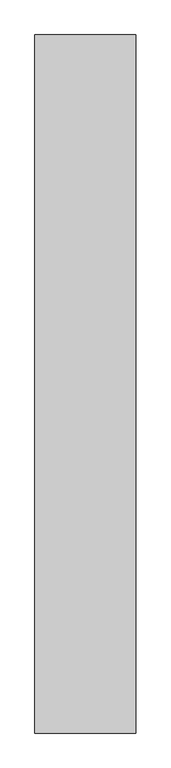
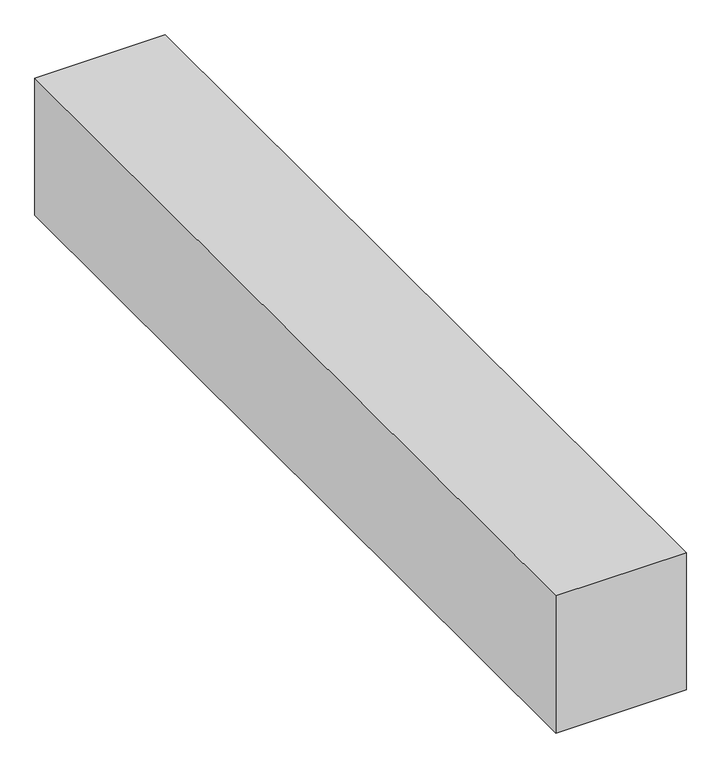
"""IFC4 building model written with IfcOpenShell, lengths in millimetres: furniture geometry, 家具 1 : 家具 1."""

import ifcopenshell
import ifcopenshell.guid

model = None  # the IFC model being written
_history = None  # IfcOwnerHistory: only IFC2X3 demands one
_inside = {}  # id of a spatial element -> (the spatial element, [elements in it])
_under = {}  # id of a project, library or spatial element -> (it, [spatial elements below it])
_declared = {}  # id of a project -> (the project, [libraries it declares])
_typed = {}  # id of a type object -> (the type object, [elements of that type])
_made_of = {}  # id of a material, layer set ... -> (it, [elements and type objects made of it])


def new_model(schema):
    """Start an empty IFC model of exactly this schema.

    Asked for "IFC4X3", IfcOpenShell would pick the latest addendum, in which some entities
    have other attributes; the version numbers below select the first issue.
    IFC2X3 requires an IfcOwnerHistory on every rooted entity: one is made here for all.
    """
    global model, _history
    if schema == "IFC4X3":
        model = ifcopenshell.file(schema_version=(4, 3, 0, 0))
    else:
        model = ifcopenshell.file(schema=schema)
    _inside.clear()
    _under.clear()
    _declared.clear()
    _typed.clear()
    _made_of.clear()
    _history = None
    if model.schema == "IFC2X3":
        org = make("IfcOrganization", Name="unknown")
        user = make(
            "IfcPersonAndOrganization",
            ThePerson=make("IfcPerson", FamilyName="unknown"),
            TheOrganization=org,
        )
        app = make(
            "IfcApplication",
            ApplicationDeveloper=org,
            Version="unknown",
            ApplicationFullName="unknown",
            ApplicationIdentifier="unknown",
        )
        _history = make(
            "IfcOwnerHistory",
            OwningUser=user,
            OwningApplication=app,
            ChangeAction="ADDED",
            CreationDate=0,
        )
    return model


def make(cls, **values):
    """One entity of the class cls with the attributes given. An attribute that is None is left unset."""
    return model.create_entity(
        cls, **{name: value for name, value in values.items() if value is not None}
    )


def rooted(cls, **values):
    """An entity with a GlobalId (a new one), such as an element, a storey or a relation."""
    return make(cls, GlobalId=ifcopenshell.guid.new(), OwnerHistory=_history, **values)


def si_unit(unit_type, name, prefix=None):
    """IfcSIUnit, for example si_unit("LENGTHUNIT", "METRE", prefix="MILLI")."""
    return make("IfcSIUnit", UnitType=unit_type, Prefix=prefix, Name=name)


def assignment(units):
    """IfcUnitAssignment: the units of a project."""
    return None if units is None else make("IfcUnitAssignment", Units=units)


def point(xyz):
    """IfcCartesianPoint."""
    return None if xyz is None else make("IfcCartesianPoint", Coordinates=xyz)


def direction(xyz):
    """IfcDirection."""
    return None if xyz is None else make("IfcDirection", DirectionRatios=xyz)


def frame(location, z_axis=None, x_axis=None):
    """IfcAxis2Placement3D, a coordinate frame: its origin and axes. An axis left out is left unset."""
    return make(
        "IfcAxis2Placement3D",
        Location=point(location),
        Axis=direction(z_axis),
        RefDirection=direction(x_axis),
    )


def origin():
    """The frame at (0, 0, 0) with its axes left unset."""
    return frame((0.0, 0.0, 0.0))


def place(relative_to, where):
    """IfcLocalPlacement: puts the frame where relative to a parent placement (None: the world)."""
    return make(
        "IfcLocalPlacement", PlacementRelTo=relative_to, RelativePlacement=where
    )


def context(
    kind, dimensions, precision=None, world=None, true_north=None, identifier=None
):
    """IfcGeometricRepresentationContext, for example the 3D "Model" context."""
    return make(
        "IfcGeometricRepresentationContext",
        ContextIdentifier=identifier,
        ContextType=kind,
        CoordinateSpaceDimension=dimensions,
        Precision=precision,
        WorldCoordinateSystem=world,
        TrueNorth=true_north,
    )


def project(units=None, contexts=None):
    """IfcProject with its units and contexts."""
    return rooted(
        "IfcProject",
        Name="project",
        RepresentationContexts=contexts,
        UnitsInContext=assignment(units),
    )


def spatial(cls, under=None, at=None, **own):
    """A site, building, storey or space (cls), placed at a placement, below another one or the project."""
    s = rooted(cls, ObjectPlacement=at, **own)
    if under is not None:
        _under.setdefault(under.id(), (under, []))[1].append(s)
    return s


def polyline(points):
    """IfcPolyline through the points."""
    return make("IfcPolyline", Points=[point(p) for p in points])


def outline(outer, holes=None, kind="AREA"):
    """IfcArbitraryClosedProfileDef: a profile drawn as a closed curve; with holes, ...WithVoids."""
    if holes is None:
        return make("IfcArbitraryClosedProfileDef", ProfileType=kind, OuterCurve=outer)
    return make(
        "IfcArbitraryProfileDefWithVoids",
        ProfileType=kind,
        OuterCurve=outer,
        InnerCurves=holes,
    )


def extrude(swept, where, along, depth):
    """IfcExtrudedAreaSolid: the profile swept, set in the frame where, extruded along a direction by depth."""
    return make(
        "IfcExtrudedAreaSolid",
        SweptArea=swept,
        Position=where,
        ExtrudedDirection=direction(along),
        Depth=depth,
    )


def shape(context_of_items, identifier, shape_type, items):
    """IfcShapeRepresentation: the items that make up one representation, for example the "Body"."""
    return make(
        "IfcShapeRepresentation",
        ContextOfItems=context_of_items,
        RepresentationIdentifier=identifier,
        RepresentationType=shape_type,
        Items=items,
    )


def source(mapping_origin, context_of_items, identifier, shape_type, items):
    """IfcRepresentationMap: a shape defined once, which mapped items show again and again."""
    return make(
        "IfcRepresentationMap",
        MappingOrigin=mapping_origin,
        MappedRepresentation=shape(context_of_items, identifier, shape_type, items),
    )


def transform(
    local_origin,
    x_axis=None,
    y_axis=None,
    z_axis=None,
    scale=None,
    scale2=None,
    scale3=None,
    uniform=True,
):
    """IfcCartesianTransformationOperator3D, or its non-uniform kind. x_axis, y_axis, z_axis: its Axis1, 2, 3."""
    if uniform:
        return make(
            "IfcCartesianTransformationOperator3D",
            Axis1=direction(x_axis),
            Axis2=direction(y_axis),
            LocalOrigin=point(local_origin),
            Scale=scale,
            Axis3=direction(z_axis),
        )
    return make(
        "IfcCartesianTransformationOperator3DnonUniform",
        Axis1=direction(x_axis),
        Axis2=direction(y_axis),
        LocalOrigin=point(local_origin),
        Scale=scale,
        Axis3=direction(z_axis),
        Scale2=scale2,
        Scale3=scale3,
    )


def mapped(mapping_source, mapping_target):
    """IfcMappedItem: shows the shape of a source again, moved by a transform."""
    return make(
        "IfcMappedItem", MappingSource=mapping_source, MappingTarget=mapping_target
    )


def made_of(thing, what):
    """Note that an element or type object is made of a material, layer set ...; save() writes the relation."""
    if what is not None:
        _made_of.setdefault(what.id(), (what, []))[1].append(thing)
    return thing


def element(
    cls,
    number,
    at=None,
    inside=None,
    cuts=None,
    type_object=None,
    material=None,
    context=None,
    identifier="Body",
    shape_type=None,
    held_by="IfcProductDefinitionShape",
    body=None,
    shapes=None,
    **own,
):
    """One element of the class cls, such as IfcWall. Its Tag is "e" and its number.

    at: its placement. inside: the storey or other place that contains it. cuts: it is an
    opening in that element (IfcRelVoidsElement). A single representation is given by context,
    identifier, shape_type and body (its items); several are given by shapes. held_by: the class
    of the entity that holds the representations. save() writes the other relations.
    """
    e = rooted(cls, Tag="e%d" % number, ObjectPlacement=at, **own)
    if body is not None:
        shapes = [shape(context, identifier, shape_type, body)]
    if shapes is not None:
        e.Representation = make(held_by, Representations=shapes)
    if inside is not None:
        _inside.setdefault(inside.id(), (inside, []))[1].append(e)
    if cuts is not None:
        rooted(
            "IfcRelVoidsElement", RelatingBuildingElement=cuts, RelatedOpeningElement=e
        )
    if type_object is not None:
        _typed.setdefault(type_object.id(), (type_object, []))[1].append(e)
    return made_of(e, material)


def aggregate(whole, parts):
    """IfcRelAggregates: a whole, such as a stair, and the parts it consists of."""
    return rooted("IfcRelAggregates", RelatingObject=whole, RelatedObjects=parts)


def save(model, path):
    """Write the relations noted so far, then the file.

    IfcRelAggregates (storeys below a building ...), IfcRelContainedInSpatialStructure (elements
    in a storey), IfcRelDefinesByType, IfcRelAssociatesMaterial and IfcRelDeclares: one each for
    every whole, place, type object, material and project.
    """
    for whole, parts in _under.values():
        aggregate(whole, parts)
    for where, things in _inside.values():
        rooted(
            "IfcRelContainedInSpatialStructure",
            RelatedElements=things,
            RelatingStructure=where,
        )
    for kind, things in _typed.values():
        rooted("IfcRelDefinesByType", RelatedObjects=things, RelatingType=kind)
    for what, things in _made_of.values():
        rooted("IfcRelAssociatesMaterial", RelatedObjects=things, RelatingMaterial=what)
    for by, libraries in _declared.values():
        rooted("IfcRelDeclares", RelatingContext=by, RelatedDefinitions=libraries)
    model.write(path)


def furniture_170e7c11(model_context):
    return source(origin(), model_context, "Body", "SweptSolid", [
        extrude(outline(polyline([(-3771.6711453, 2908.6904444), (-3771.6711453, -827.7095556), (-4311.6711453, -827.7095556), (-4311.6711453, 2908.6904444), (-3771.6711453, 2908.6904444)])), frame((0.0, 0.0, -1250.0), z_axis=(0.0, 0.0, 1.0), x_axis=(1.0, 0.0, 0.0)), (0.0, 0.0, 1.0), 600.459278),
    ])


if __name__ == "__main__":
    model = new_model("IFC4")
    model_context = context("Model", 3, world=origin())
    ifc_project = project(units=[si_unit("LENGTHUNIT", "METRE", prefix="MILLI")], contexts=[model_context])
    site = spatial("IfcSite", under=ifc_project)
    building = spatial("IfcBuilding", under=site)
    placement = place(None, origin())
    furniture_shape = furniture_170e7c11(model_context)
    element("IfcFurniture", 1, ObjectType="家具 1 : 家具 1", at=placement, inside=building, context=model_context, shape_type="MappedRepresentation", body=[
        mapped(furniture_shape, transform((0.0, 0.0, 0.0), x_axis=(1.0, 0.0, 0.0), y_axis=(0.0, 1.0, 0.0), z_axis=(0.0, 0.0, 1.0))),
    ])
    save(model, "model.ifc")
